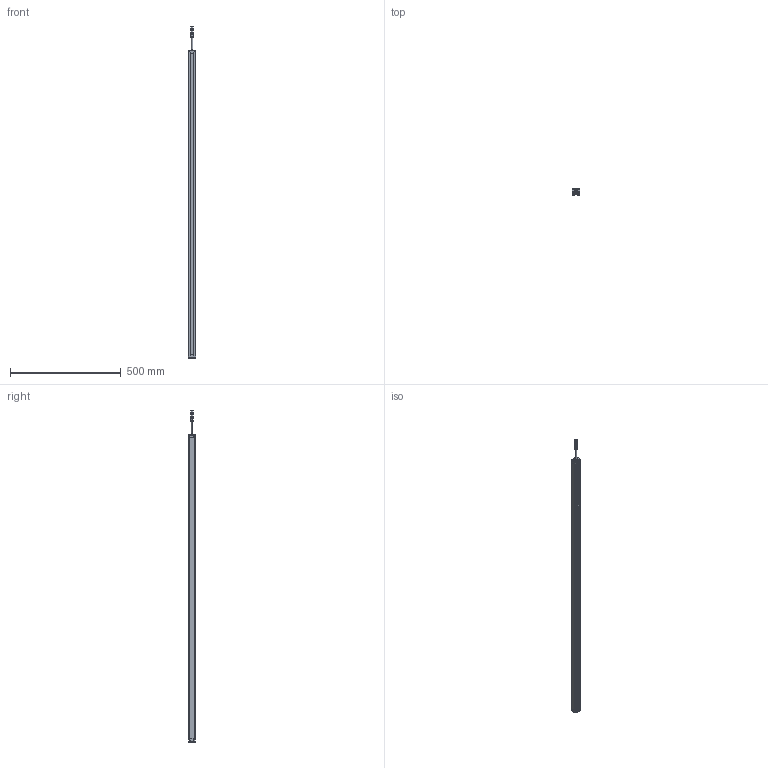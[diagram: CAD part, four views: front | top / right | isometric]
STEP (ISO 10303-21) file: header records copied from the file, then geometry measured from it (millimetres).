
FILE_DESCRIPTION((''),'2;1');
FILE_NAME('SMT1-CGQ_ASM','2025-08-08T08:45:45',('Administrator'),(''),'CREO PARAMETRIC BY PTC INC, 2016510','CREO PARAMETRIC BY PTC INC, 2016510','');
FILE_SCHEMA(('CONFIG_CONTROL_DESIGN'));
Length unit declared in the file: millimetre
Products named in the file (7): SMT1-XINGCAI-V1; SMT1-SDG-V1; SMT1-XDG-V1; M12-CHATOU; ST3X18; CT4-LVGUANGBAN; SMT1-CGQ_ASM
Assembly tree (13 placements, depth 2):
  SMT1-CGQ_ASM
    SMT1-XINGCAI-V1
    SMT1-SDG-V1
    SMT1-XDG-V1
    M12-CHATOU
    ST3X18  x8
    CT4-LVGUANGBAN
Bounding box: 33 x 28.02 x 1499.5 mm (x, y, z)
Volume: 1074998.2 mm3; surface area: 344441.2 mm2
Topology: 13 solids, 13 shells, 712 faces, 1868 edges, 1200 vertices
Faces by surface type: plane 382, cylinder 184, extrusion 86, sphere 32, cone 20, bspline 8
Entity records: 18128 total; most frequent: CARTESIAN_POINT 4347, ORIENTED_EDGE 2916, DIRECTION 2580, EDGE_CURVE 1458, VECTOR 1036, VERTEX_POINT 955, LINE 950, AXIS2_PLACEMENT_3D 772
